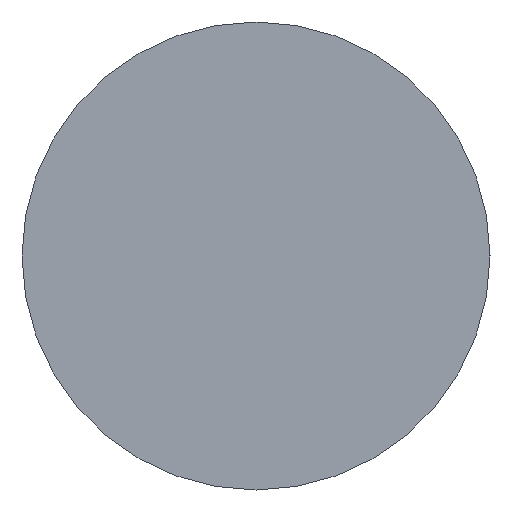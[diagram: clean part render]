
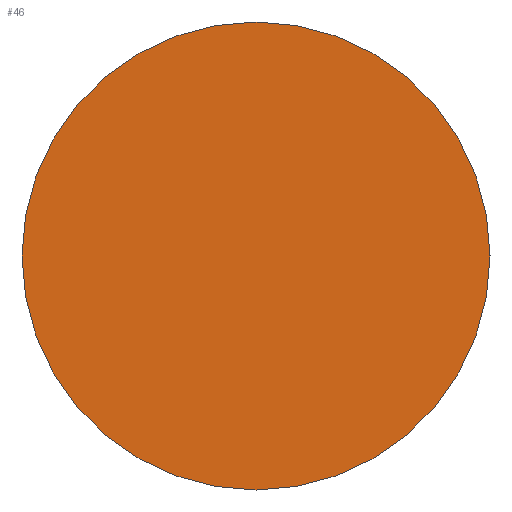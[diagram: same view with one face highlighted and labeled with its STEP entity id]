
A CAD part, left-side view. The second image highlights one B-rep face of the part: STEP entity #46.
In plain terms, the highlighted planar face has unit normal (-1, 0, 0).
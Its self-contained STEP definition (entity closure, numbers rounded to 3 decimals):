
#2 = ORIENTED_EDGE ( 'NONE', *, *, #200, .F. ) ;
#8 = CARTESIAN_POINT ( 'NONE',  ( 0., 0., 0. ) ) ;
#11 = VERTEX_POINT ( 'NONE', #82 ) ;
#16 = DIRECTION ( 'NONE',  ( -1., 0., 0. ) ) ;
#39 = DIRECTION ( 'NONE',  ( 1., 0., 0. ) ) ;
#43 = PLANE ( 'NONE',  #107 ) ;
#46 = ADVANCED_FACE ( 'NONE', ( #228 ), #43, .T. ) ;
#50 = DIRECTION ( 'NONE',  ( 0., 1., 0. ) ) ;
#80 = CIRCLE ( 'NONE', #145, 4. ) ;
#82 = CARTESIAN_POINT ( 'NONE',  ( 0., -4., 0. ) ) ;
#88 = AXIS2_PLACEMENT_3D ( 'NONE', #191, #39, #169 ) ;
#105 = CIRCLE ( 'NONE', #88, 4. ) ;
#107 = AXIS2_PLACEMENT_3D ( 'NONE', #171, #16, #204 ) ;
#115 = EDGE_CURVE ( 'NONE', #11, #167, #105, .T. ) ;
#121 = ORIENTED_EDGE ( 'NONE', *, *, #115, .F. ) ;
#145 = AXIS2_PLACEMENT_3D ( 'NONE', #8, #180, #50 ) ;
#167 = VERTEX_POINT ( 'NONE', #245 ) ;
#169 = DIRECTION ( 'NONE',  ( 0., 1., 0. ) ) ;
#171 = CARTESIAN_POINT ( 'NONE',  ( 0., 0., 0. ) ) ;
#180 = DIRECTION ( 'NONE',  ( 1., 0., 0. ) ) ;
#191 = CARTESIAN_POINT ( 'NONE',  ( 0., 0., 0. ) ) ;
#200 = EDGE_CURVE ( 'NONE', #167, #11, #80, .T. ) ;
#204 = DIRECTION ( 'NONE',  ( 0., -1., 0. ) ) ;
#228 = FACE_OUTER_BOUND ( 'NONE', #238, .T. ) ;
#238 = EDGE_LOOP ( 'NONE', ( #2, #121 ) ) ;
#245 = CARTESIAN_POINT ( 'NONE',  ( 0., 4., 0. ) ) ;
